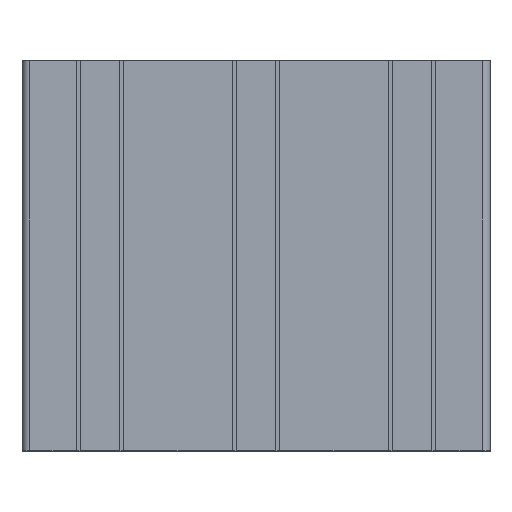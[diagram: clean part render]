
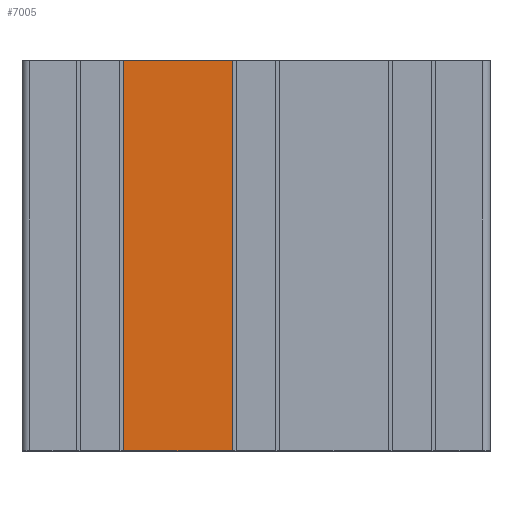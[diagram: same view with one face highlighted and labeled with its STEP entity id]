
A CAD part, top view. The second image highlights one B-rep face of the part: STEP entity #7005.
In plain terms, the highlighted planar face has unit normal (0, 0, 1).
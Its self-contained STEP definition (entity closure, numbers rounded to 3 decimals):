
#1439=ORIENTED_EDGE('',*,*,#3280,.T.);
#1440=ORIENTED_EDGE('',*,*,#3279,.F.);
#1441=ORIENTED_EDGE('',*,*,#3281,.F.);
#1442=ORIENTED_EDGE('',*,*,#3282,.T.);
#3279=EDGE_CURVE('',#4078,#4077,#4825,.T.);
#3280=EDGE_CURVE('',#4079,#4077,#4826,.T.);
#3281=EDGE_CURVE('',#4080,#4078,#4827,.T.);
#3282=EDGE_CURVE('',#4080,#4079,#4828,.T.);
#4077=VERTEX_POINT('',#11298);
#4078=VERTEX_POINT('',#11300);
#4079=VERTEX_POINT('',#11304);
#4080=VERTEX_POINT('',#11306);
#4825=LINE('',#11301,#5593);
#4826=LINE('',#11303,#5594);
#4827=LINE('',#11305,#5595);
#4828=LINE('',#11307,#5596);
#5593=VECTOR('',#9206,1000.);
#5594=VECTOR('',#9209,1000.);
#5595=VECTOR('',#9210,1000.);
#5596=VECTOR('',#9211,1000.);
#6043=EDGE_LOOP('',(#1439,#1440,#1441,#1442));
#6417=FACE_BOUND('',#6043,.T.);
#6694=PLANE('',#7563);
#7005=ADVANCED_FACE('',(#6417),#6694,.F.);
#7563=AXIS2_PLACEMENT_3D('',#11302,#9207,#9208);
#9206=DIRECTION('',(0.,1.,0.));
#9207=DIRECTION('',(0.,0.,-1.));
#9208=DIRECTION('',(0.,1.,0.));
#9209=DIRECTION('',(-1.,0.,0.));
#9210=DIRECTION('',(-1.,0.,0.));
#9211=DIRECTION('',(0.,1.,0.));
#11298=CARTESIAN_POINT('',(915.412,671.993,220.));
#11300=CARTESIAN_POINT('',(915.412,571.993,220.));
#11301=CARTESIAN_POINT('',(915.412,-328.007,220.));
#11302=CARTESIAN_POINT('',(915.412,-328.007,220.));
#11303=CARTESIAN_POINT('',(915.412,671.993,220.));
#11304=CARTESIAN_POINT('',(943.212,671.993,220.));
#11305=CARTESIAN_POINT('',(915.412,571.993,220.));
#11306=CARTESIAN_POINT('',(943.212,571.993,220.));
#11307=CARTESIAN_POINT('',(943.212,-328.007,220.));
